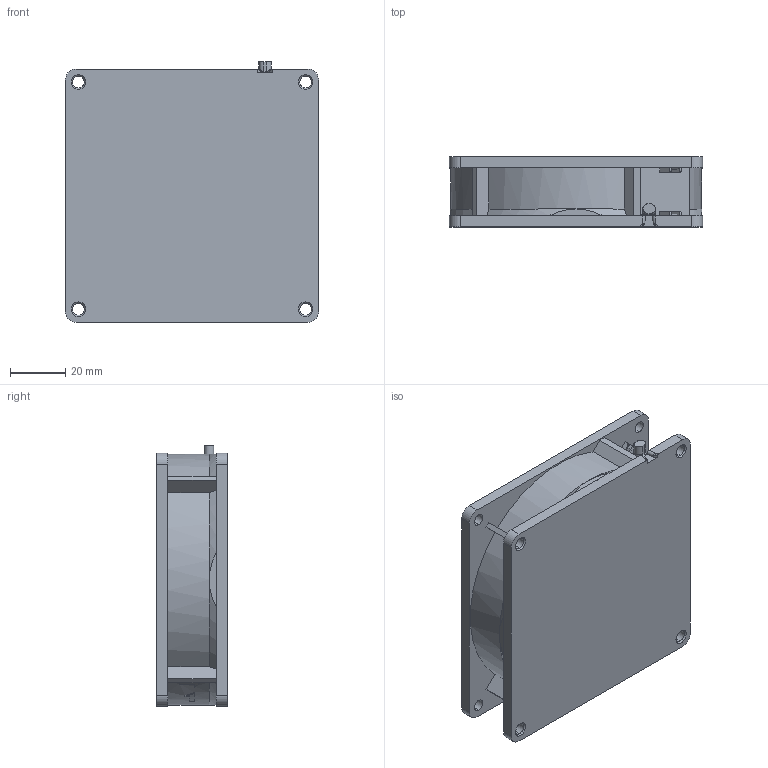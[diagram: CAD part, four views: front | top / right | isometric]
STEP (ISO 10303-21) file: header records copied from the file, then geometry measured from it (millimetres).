
FILE_DESCRIPTION (( 'STEP AP214' ), '1' );
FILE_NAME ('A09A23HTBF00.STEP', '2023-11-14T14:37:45', ( '' ), ( '' ), 'SwSTEP 2.0', 'SolidWorks 2022', '' );
FILE_SCHEMA (( 'AUTOMOTIVE_DESIGN' ));
Length unit declared in the file: millimetre
Products named in the file (1): A09A23HTBF00
Bounding box: 92 x 25.5 x 94.66 mm (x, y, z)
Volume: 183645.4 mm3; surface area: 29802.9 mm2
Topology: 1 solids, 1 shells, 285 faces, 766 edges, 497 vertices
Faces by surface type: plane 185, cylinder 66, cone 26, torus 4, bspline 4
Entity records: 9924 total; most frequent: CARTESIAN_POINT 3041, ORIENTED_EDGE 1532, DIRECTION 1321, EDGE_CURVE 766, VERTEX_POINT 497, AXIS2_PLACEMENT_3D 454, VECTOR 413, LINE 413
